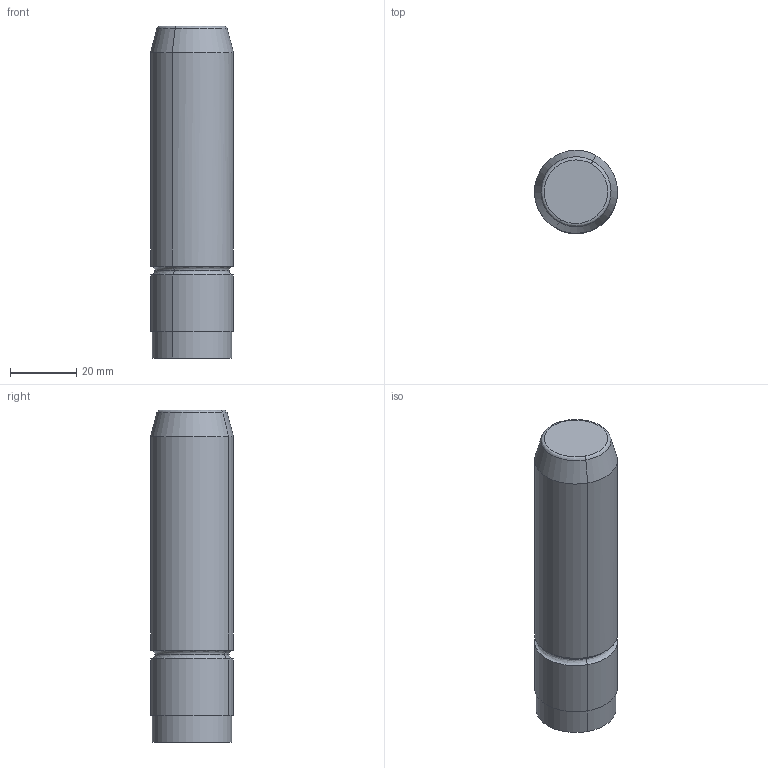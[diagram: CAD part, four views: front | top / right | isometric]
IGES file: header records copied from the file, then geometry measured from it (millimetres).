
Start section: START RECORD GO HERE.
Global section: file name: M104-25x100.igs; native system: DASSAULT SYSTEMES CATIA V5 R20 - www.3ds.com; preprocessor: CATIA Version 5 Release 20 ; author: Utente; organization: NB04-ASUS; date: 20201226.223944; units: millimetre
Bounding box: 24.99 x 25 x 100 mm (x, y, z)
Surface area: 8706.2 mm2 (no closed solid volume)
Topology: 0 solids, 0 shells, 17 faces, 64 edges, 64 vertices
Faces by surface type: revolution 14, plane 3
